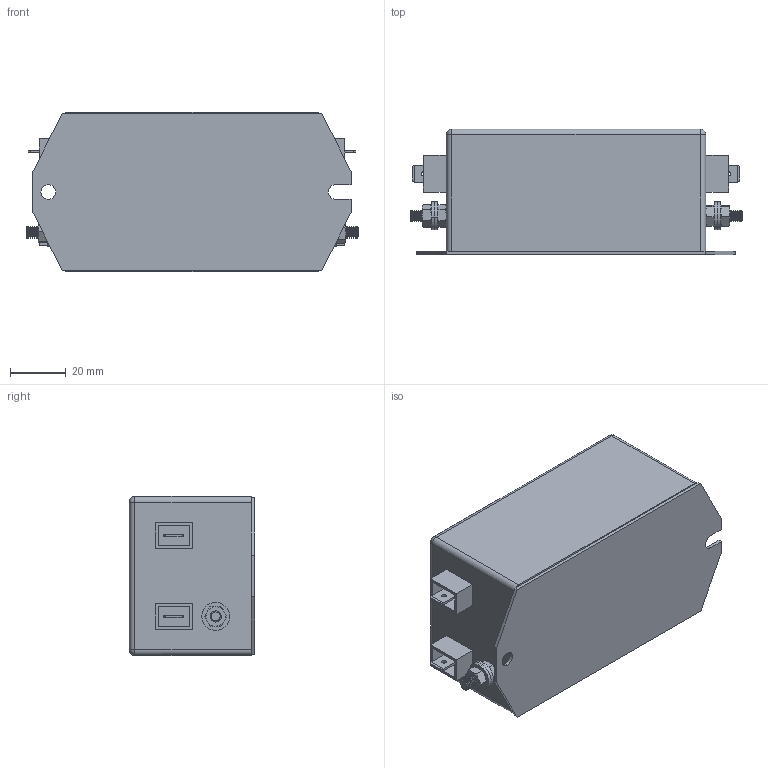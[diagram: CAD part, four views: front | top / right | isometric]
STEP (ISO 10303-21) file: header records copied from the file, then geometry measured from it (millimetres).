
FILE_DESCRIPTION (( 'STEP AP203' ), '1' );
FILE_NAME ('NF-6-1ph-FSE.STEP', '2025-05-14T16:13:29', ( '' ), ( '' ), 'SwSTEP 2.0', 'SolidWorks 2017', '' );
FILE_SCHEMA (( 'CONFIG_CONTROL_DESIGN' ));
Length unit declared in the file: millimetre
Products named in the file (9): Fast on for display only; hex screw_am (dont use)_B18.6.7M - M4 x 0.7 x 10 Indented HHMS --10S; NF-6-1ph-FSE; Fast-on for 1M; NF-1ph-FSE b(6); M4x10 Earth post; Fast-on shell for dispal only; hex nut style 1_am_B18.2.4.1M - Hex nut, Style 1,  M4 x 0.7 --D-N; flat washer narrow_am_B18.22M - Plain washer, 4 mm, narrow
Assembly tree (13 placements, depth 3):
  NF-6-1ph-FSE
    NF-1ph-FSE b(6)
    Fast on for display only  x4
      Fast-on shell for dispal only
      Fast-on for 1M
    M4x10 Earth post  x2
      flat washer narrow_am_B18.22M - Plain washer, 4 mm, narrow
      hex nut style 1_am_B18.2.4.1M - Hex nut, Style 1,  M4 x 0.7 --D-N
      hex screw_am (dont use)_B18.6.7M - M4 x 0.7 x 10 Indented HHMS --10S
Bounding box: 119 x 45 x 57 mm (x, y, z)
Volume: 218133.4 mm3; surface area: 39992 mm2
Topology: 17 solids, 17 shells, 474 faces, 1152 edges, 720 vertices
Faces by surface type: plane 201, cone 160, cylinder 109, sphere 4
Entity records: 7709 total; most frequent: CARTESIAN_POINT 1270, DIRECTION 1202, ORIENTED_EDGE 1080, EDGE_CURVE 540, AXIS2_PLACEMENT_3D 460, VERTEX_POINT 336, LINE 282, VECTOR 282
